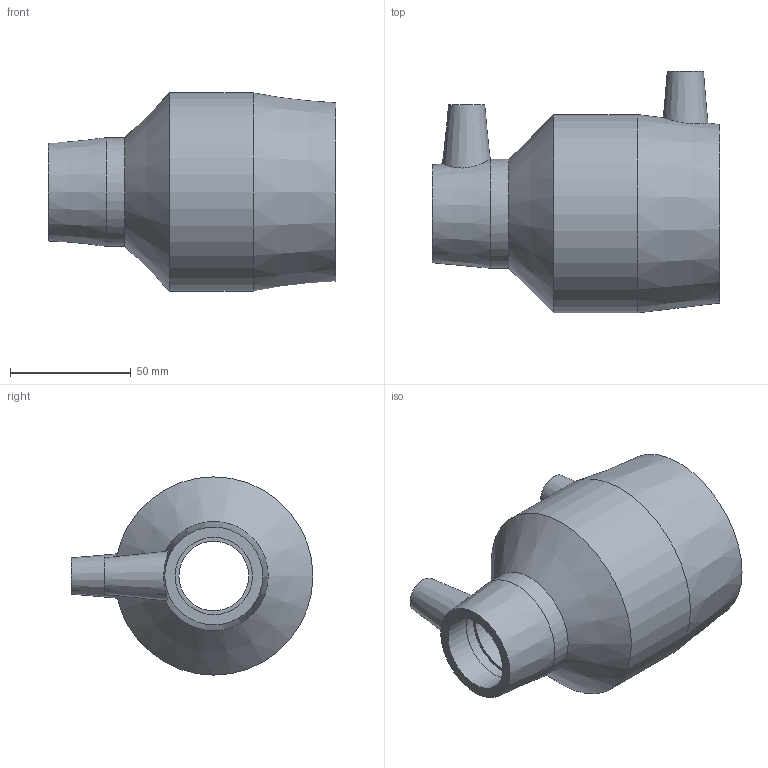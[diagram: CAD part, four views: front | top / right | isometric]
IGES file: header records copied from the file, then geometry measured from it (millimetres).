
Global section: file name: 491104063032.ipt; native system: Autodesk Inventor 2015; preprocessor: unknown; author: KIM; date: 20171106.093722; units: millimetre
Bounding box: 119 x 100 x 82 mm (x, y, z)
Volume: 211784.3 mm3; surface area: 52028.4 mm2
Topology: 1 solids, 1 shells, 32 faces, 74 edges, 52 vertices
Faces by surface type: plane 12, revolution 11, cone 5, cylinder 4
Full cylindrical faces by diameter (mm): 4 x2, 45 x1, 82 x1
